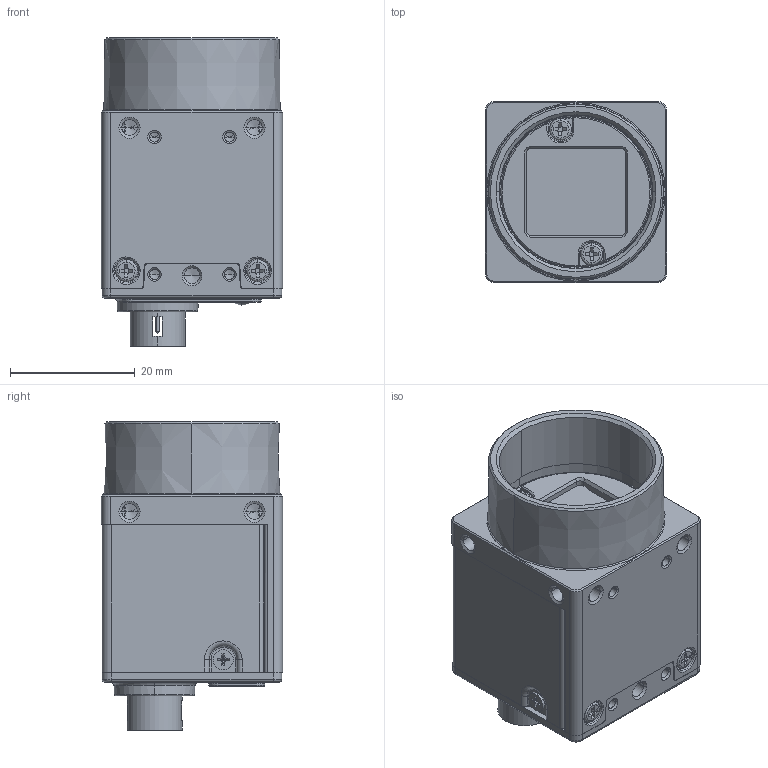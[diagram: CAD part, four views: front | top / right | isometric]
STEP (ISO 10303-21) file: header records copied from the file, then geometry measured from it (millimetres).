
FILE_DESCRIPTION((''),'2;1');
FILE_NAME('DH9-RDI000514-6001_AF9_1','2025-03-18T14:14:49',('401332'),(''),'CREO PARAMETRIC BY PTC INC, 2020184','CREO PARAMETRIC BY PTC INC, 2020184','');
FILE_SCHEMA(('CONFIG_CONTROL_DESIGN','SHAPE_APPEARANCE_LAYERS_GROUPS'));
Products named in the file (1): DH9-RDI000514-6001_AF9_1
Bounding box: 29 x 29 x 49.4 mm (x, y, z)
Volume: 10125.8 mm3; surface area: 14818.8 mm2
Topology: 1 solids, 19 shells, 2346 faces, 6266 edges, 3902 vertices
Faces by surface type: plane 994, cylinder 783, cone 230, bspline 184, torus 90, extrusion 40, sphere 25
Entity records: 104194 total; most frequent: CARTESIAN_POINT 27801, ORIENTED_EDGE 12398, DIRECTION 11522, PRESENTATION_STYLE_ASSIGNMENT 6222, STYLED_ITEM 6200, CURVE_STYLE 6199, EDGE_CURVE 6199, AXIS2_PLACEMENT_3D 3994
